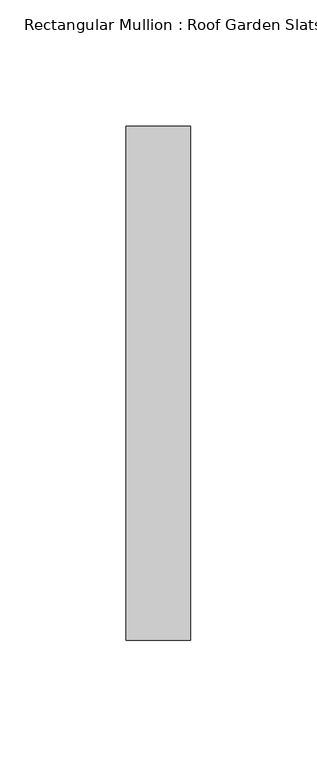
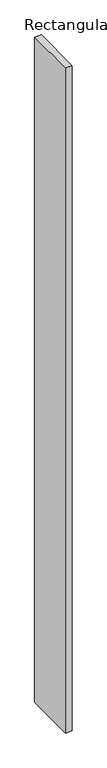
"""IFC4 building model written with IfcOpenShell, lengths in millimetres: member geometry, Rectangular Mullion : Roof Garden Slats."""

from ifc_helpers import new_model, si_unit, frame, origin, place, context, project, spatial, polyline, outline, extrude, source, transform, mapped, element, save


def rectangular_mullion_roof_garden_slats_3e1fd1b8(model_context):
    return source(origin(), model_context, "Body", "SweptSolid", [
        extrude(outline(polyline([(12.7, 139.7), (12.7, -63.5), (-12.7, -63.5), (-12.7, 139.7), (12.7, 139.7)])), frame((0.0, 0.0, -2673.1740429), z_axis=(0.0, 0.0, 1.0), x_axis=(1.0, 0.0, 0.0)), (0.0, 0.0, 1.0), 2673.1740429),
    ])


if __name__ == "__main__":
    model = new_model("IFC4")
    model_context = context("Model", 3, world=origin())
    ifc_project = project(units=[si_unit("LENGTHUNIT", "METRE", prefix="MILLI")], contexts=[model_context])
    site = spatial("IfcSite", under=ifc_project)
    building = spatial("IfcBuilding", under=site)
    placement = place(None, origin())
    rectangular_mullion_roof_garden_slats_shape = rectangular_mullion_roof_garden_slats_3e1fd1b8(model_context)
    element("IfcMember", 1, ObjectType="Rectangular Mullion : Roof Garden Slats", at=placement, inside=building, context=model_context, shape_type="MappedRepresentation", body=[
        mapped(rectangular_mullion_roof_garden_slats_shape, transform((0.0, 0.0, 0.0), x_axis=(1.0, 0.0, 0.0), y_axis=(0.0, 1.0, 0.0), z_axis=(0.0, 0.0, 1.0))),
    ])
    save(model, "model.ifc")
